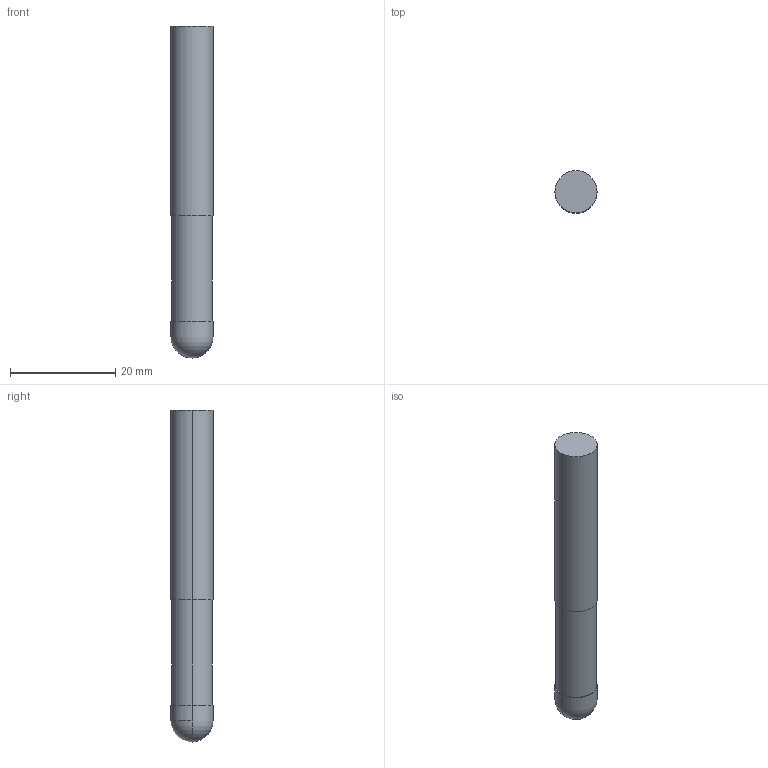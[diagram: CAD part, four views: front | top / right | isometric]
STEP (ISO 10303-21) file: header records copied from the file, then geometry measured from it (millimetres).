
FILE_DESCRIPTION(('STEP AP214'),'1');
FILE_NAME('cctmp_54AE4DB0-E3CC-4092-8EB3-0020C13B2BA2_2020_10_01_07_25_38_0288..stp','2020-10-01T05:25:38',('Meusburger Georg GmbH & Co KG'),('CADClick - www.CADClick.com'),'Spatial InterOp 3D',' ','unknown authorization');
FILE_SCHEMA(('AUTOMOTIVE_DESIGN { 1 0 10303 214 1 1 1 1 }'));
Length unit declared in the file: millimetre
Products named in the file (1): WZF18418_8
Bounding box: 8 x 8 x 62.99 mm (x, y, z)
Volume: 3025.2 mm3; surface area: 1621.9 mm2
Topology: 1 solids, 1 shells, 12 faces, 25 edges, 16 vertices
Faces by surface type: cylinder 6, plane 4, sphere 2
Entity records: 440 total; most frequent: DIRECTION 66, CARTESIAN_POINT 52, ORIENTED_EDGE 46, AXIS2_PLACEMENT_3D 30, EDGE_CURVE 23, CIRCLE 17, VERTEX_POINT 16, EDGE_LOOP 15
